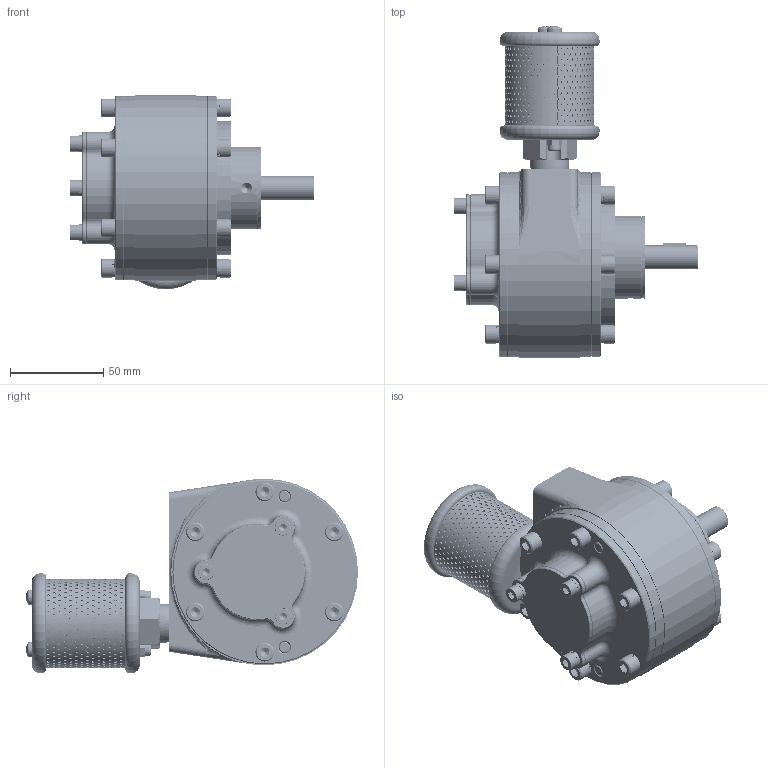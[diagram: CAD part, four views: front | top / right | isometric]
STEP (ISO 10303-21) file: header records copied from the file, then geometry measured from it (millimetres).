
FILE_DESCRIPTION (( 'STEP AP214' ), '1' );
FILE_NAME ('4VML-SS (Face).STEP', '2026-04-24T04:15:18', ( '' ), ( '' ), 'SwSTEP 2.0', 'SolidWorks 2017', '' );
FILE_SCHEMA (( 'AUTOMOTIVE_DESIGN' ));
Length unit declared in the file: millimetre
Products named in the file (2): 4VML-SS (Face)
Bounding box: 131.05 x 178.02 x 104.25 mm (x, y, z)
Volume: 387167.9 mm3; surface area: 174761 mm2
Topology: 62 solids, 62 shells, 4242 faces, 11257 edges, 7063 vertices
Faces by surface type: cylinder 2352, cone 1068, plane 657, torus 141, sphere 16, bspline 8
Entity records: 218159 total; most frequent: CARTESIAN_POINT 67670, ORIENTED_EDGE 22298, DIRECTION 19464, EDGE_CURVE 11149, AXIS2_PLACEMENT_3D 7593, VERTEX_POINT 7063, EDGE_LOOP 5904, UNCERTAINTY_MEASURE_WITH_UNIT 4287
